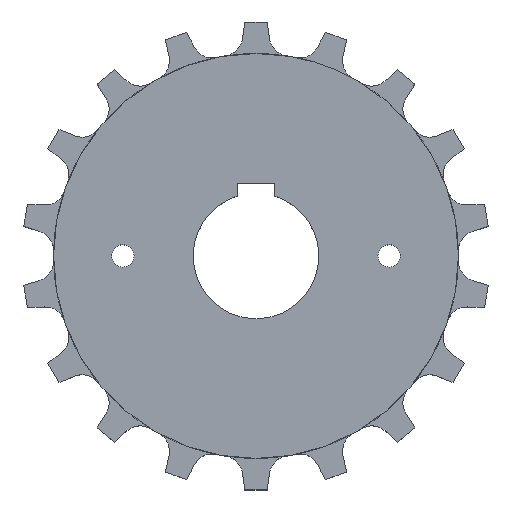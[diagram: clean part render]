
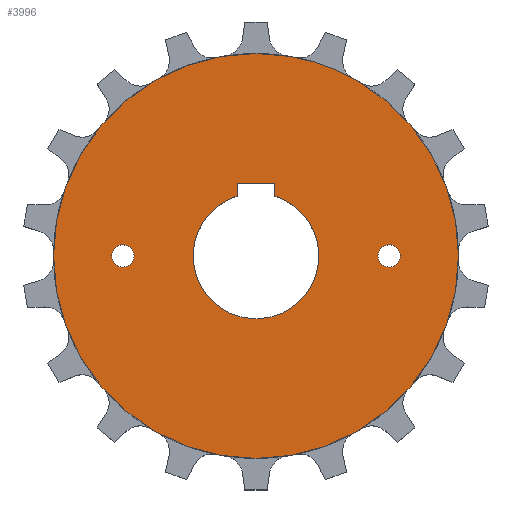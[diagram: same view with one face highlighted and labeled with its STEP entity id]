
A CAD part, top view. The second image highlights one B-rep face of the part: STEP entity #3996.
In plain terms, the highlighted planar face has unit normal (0, 0, 1).
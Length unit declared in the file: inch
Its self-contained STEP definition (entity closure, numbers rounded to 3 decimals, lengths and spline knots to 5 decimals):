
#43=CARTESIAN_POINT('',(0.,0.,0.375));
#44=DIRECTION('',(0.,0.,1.));
#45=DIRECTION('',(0.174,0.985,0.));
#46=AXIS2_PLACEMENT_3D('',#43,#44,#45);
#1383=CARTESIAN_POINT('',(0.,0.,0.375));
#1384=DIRECTION('',(0.,0.,1.));
#1385=DIRECTION('',(0.5,0.866,0.));
#1386=AXIS2_PLACEMENT_3D('',#1383,#1384,#1385);
#1388=CARTESIAN_POINT('',(1.67,0.,0.375));
#1389=DIRECTION('',(0.,0.,1.));
#1390=DIRECTION('',(1.,0.,0.));
#1391=AXIS2_PLACEMENT_3D('',#1388,#1389,#1390);
#1393=CARTESIAN_POINT('',(1.67,0.,0.375));
#1394=DIRECTION('',(0.,0.,1.));
#1395=DIRECTION('',(-1.,0.,0.));
#1396=AXIS2_PLACEMENT_3D('',#1393,#1394,#1395);
#1398=CARTESIAN_POINT('',(-1.67,0.,0.375));
#1399=DIRECTION('',(0.,0.,1.));
#1400=DIRECTION('',(1.,0.,0.));
#1401=AXIS2_PLACEMENT_3D('',#1398,#1399,#1400);
#1403=CARTESIAN_POINT('',(-1.67,0.,0.375));
#1404=DIRECTION('',(0.,0.,1.));
#1405=DIRECTION('',(-1.,0.,0.));
#1406=AXIS2_PLACEMENT_3D('',#1403,#1404,#1405);
#1408=DIRECTION('',(0.,-1.,0.));
#1409=VECTOR('',#1408,0.157);
#1410=CARTESIAN_POINT('',(-0.236,0.90831,0.375));
#1411=LINE('',#1410,#1409);
#1412=CARTESIAN_POINT('',(0.,0.,0.375));
#1413=DIRECTION('',(0.,0.,1.));
#1414=DIRECTION('',(-0.3,0.954,0.));
#1415=AXIS2_PLACEMENT_3D('',#1412,#1413,#1414);
#1417=DIRECTION('',(0.,1.,0.));
#1418=VECTOR('',#1417,0.157);
#1419=CARTESIAN_POINT('',(0.236,0.75131,0.375));
#1420=LINE('',#1419,#1418);
#1421=DIRECTION('',(-1.,0.,0.));
#1422=VECTOR('',#1421,0.472);
#1423=CARTESIAN_POINT('',(0.236,0.90831,0.375));
#1424=LINE('',#1423,#1422);
#1684=CARTESIAN_POINT('',(0.44089,2.50042,0.375));
#1686=VERTEX_POINT('',#1684);
#1688=CARTESIAN_POINT('',(1.2695,2.19884,0.375));
#1690=VERTEX_POINT('',#1688);
#1843=CARTESIAN_POINT('',(1.8105,0.,0.375));
#1844=CARTESIAN_POINT('',(1.5295,0.,0.375));
#1845=VERTEX_POINT('',#1843);
#1846=VERTEX_POINT('',#1844);
#1847=CARTESIAN_POINT('',(-1.5295,0.,0.375));
#1848=CARTESIAN_POINT('',(-1.8105,0.,0.375));
#1849=VERTEX_POINT('',#1847);
#1850=VERTEX_POINT('',#1848);
#1859=CARTESIAN_POINT('',(-0.236,0.90831,0.375));
#1860=CARTESIAN_POINT('',(-0.236,0.75131,0.375));
#1861=VERTEX_POINT('',#1859);
#1862=VERTEX_POINT('',#1860);
#1863=CARTESIAN_POINT('',(0.236,0.75131,0.375));
#1864=VERTEX_POINT('',#1863);
#1865=CARTESIAN_POINT('',(0.236,0.90831,0.375));
#1866=VERTEX_POINT('',#1865);
#3964=CARTESIAN_POINT('',(0.,0.,0.375));
#3965=DIRECTION('',(0.,0.,1.));
#3966=DIRECTION('',(1.,0.,0.));
#3967=AXIS2_PLACEMENT_3D('',#3964,#3965,#3966);
#3968=PLANE('',#3967);
#3969=ORIENTED_EDGE('',*,*,#2050,.F.);
#3971=ORIENTED_EDGE('',*,*,#3970,.F.);
#3972=EDGE_LOOP('',(#3969,#3971));
#3973=FACE_OUTER_BOUND('',#3972,.F.);
#3975=ORIENTED_EDGE('',*,*,#3974,.T.);
#3977=ORIENTED_EDGE('',*,*,#3976,.T.);
#3978=EDGE_LOOP('',(#3975,#3977));
#3979=FACE_BOUND('',#3978,.F.);
#3981=ORIENTED_EDGE('',*,*,#3980,.T.);
#3983=ORIENTED_EDGE('',*,*,#3982,.T.);
#3984=EDGE_LOOP('',(#3981,#3983));
#3985=FACE_BOUND('',#3984,.F.);
#3987=ORIENTED_EDGE('',*,*,#3986,.T.);
#3989=ORIENTED_EDGE('',*,*,#3988,.T.);
#3991=ORIENTED_EDGE('',*,*,#3990,.T.);
#3993=ORIENTED_EDGE('',*,*,#3992,.T.);
#3994=EDGE_LOOP('',(#3987,#3989,#3991,#3993));
#3995=FACE_BOUND('',#3994,.F.);
#3996=ADVANCED_FACE('',(#3973,#3979,#3985,#3995),#3968,.T.);
#47=CIRCLE('',#46,2.539);
#1387=CIRCLE('',#1386,2.539);
#1392=CIRCLE('',#1391,0.1405);
#1397=CIRCLE('',#1396,0.1405);
#1402=CIRCLE('',#1401,0.1405);
#1407=CIRCLE('',#1406,0.1405);
#1416=CIRCLE('',#1415,0.7875);
#2050=EDGE_CURVE('',#1686,#1690,#47,.T.);
#3970=EDGE_CURVE('',#1690,#1686,#1387,.T.);
#3974=EDGE_CURVE('',#1845,#1846,#1392,.T.);
#3976=EDGE_CURVE('',#1846,#1845,#1397,.T.);
#3980=EDGE_CURVE('',#1849,#1850,#1402,.T.);
#3982=EDGE_CURVE('',#1850,#1849,#1407,.T.);
#3986=EDGE_CURVE('',#1861,#1862,#1411,.T.);
#3988=EDGE_CURVE('',#1862,#1864,#1416,.T.);
#3990=EDGE_CURVE('',#1864,#1866,#1420,.T.);
#3992=EDGE_CURVE('',#1866,#1861,#1424,.T.);
